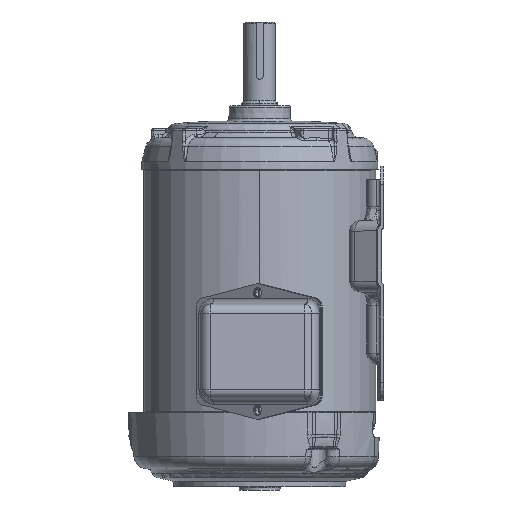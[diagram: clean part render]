
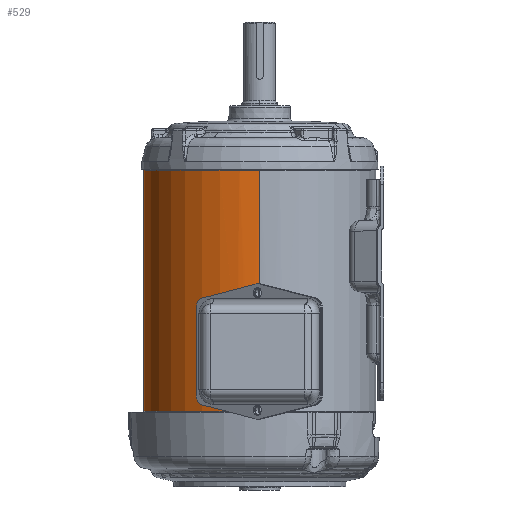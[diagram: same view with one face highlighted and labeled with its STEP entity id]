
A CAD part, left-side view. The second image highlights one B-rep face of the part: STEP entity #529.
In plain terms, the highlighted cylindrical face has radius 81.783 mm (diameter 163.566 mm), a partial arc.
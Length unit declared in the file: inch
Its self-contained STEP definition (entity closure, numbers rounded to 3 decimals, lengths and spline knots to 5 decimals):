
#2=CARTESIAN_POINT('',(-3.1702,0.563,-1.7635));
#3=CARTESIAN_POINT('',(-3.16835,0.57342,-1.7635));
#4=CARTESIAN_POINT('',(-3.16478,0.59292,-1.75998));
#5=CARTESIAN_POINT('',(-3.15962,0.61977,-1.74468));
#6=CARTESIAN_POINT('',(-3.15566,0.63953,-1.72097));
#7=CARTESIAN_POINT('',(-3.15353,0.64988,-1.69245));
#8=CARTESIAN_POINT('',(-3.15352,0.64997,-1.66188));
#9=CARTESIAN_POINT('',(-3.15565,0.6396,-1.6332));
#10=CARTESIAN_POINT('',(-3.15954,0.62016,-1.60965));
#11=CARTESIAN_POINT('',(-3.16477,0.59299,-1.594));
#12=CARTESIAN_POINT('',(-3.16834,0.57345,-1.5905));
#13=CARTESIAN_POINT('',(-3.1702,0.563,-1.5905));
#15=CARTESIAN_POINT('',(-3.1702,0.563,-1.5905));
#16=CARTESIAN_POINT('',(-3.17204,0.5526,-1.5905));
#17=CARTESIAN_POINT('',(-3.1754,0.53312,-1.59402));
#18=CARTESIAN_POINT('',(-3.17977,0.50634,-1.60924));
#19=CARTESIAN_POINT('',(-3.18284,0.48654,-1.63291));
#20=CARTESIAN_POINT('',(-3.1844,0.47611,-1.66149));
#21=CARTESIAN_POINT('',(-3.18442,0.47603,-1.69219));
#22=CARTESIAN_POINT('',(-3.18285,0.48647,-1.72093));
#23=CARTESIAN_POINT('',(-3.17983,0.50596,-1.74445));
#24=CARTESIAN_POINT('',(-3.17541,0.53307,-1.76001));
#25=CARTESIAN_POINT('',(-3.17205,0.55258,-1.7635));
#26=CARTESIAN_POINT('',(-3.1702,0.563,-1.7635));
#28=DIRECTION('',(0.,0.,1.));
#29=VECTOR('',#28,6.688);
#30=CARTESIAN_POINT('',(3.2198,0.,-3.333));
#31=LINE('',#30,#29);
#32=CARTESIAN_POINT('',(0.,0.,3.355));
#33=DIRECTION('',(0.,0.,1.));
#34=DIRECTION('',(1.,0.,0.));
#35=AXIS2_PLACEMENT_3D('',#32,#33,#34);
#37=CARTESIAN_POINT('',(0.,0.,3.355));
#38=DIRECTION('',(0.,0.,1.));
#39=DIRECTION('',(0.,1.,0.));
#40=AXIS2_PLACEMENT_3D('',#37,#38,#39);
#42=CARTESIAN_POINT('',(0.,0.,-1.267));
#43=DIRECTION('',(0.,0.,1.));
#44=DIRECTION('',(-0.996,0.089,0.));
#45=AXIS2_PLACEMENT_3D('',#42,#43,#44);
#47=CARTESIAN_POINT('',(-3.19359,0.41,-1.392));
#48=CARTESIAN_POINT('',(-3.19359,0.41,-1.3825));
#49=CARTESIAN_POINT('',(-3.19386,0.40789,-1.36404));
#50=CARTESIAN_POINT('',(-3.19504,0.3986,-1.33735));
#51=CARTESIAN_POINT('',(-3.19689,0.38353,-1.31337));
#52=CARTESIAN_POINT('',(-3.19924,0.36355,-1.29342));
#53=CARTESIAN_POINT('',(-3.20187,0.33967,-1.27841));
#54=CARTESIAN_POINT('',(-3.20459,0.31295,-1.2691));
#55=CARTESIAN_POINT('',(-3.20632,0.29449,-1.267));
#56=CARTESIAN_POINT('',(-3.20716,0.285,-1.267));
#58=DIRECTION('',(0.,0.,1.));
#59=VECTOR('',#58,0.95);
#60=CARTESIAN_POINT('',(-3.19359,0.41,-2.342));
#61=LINE('',#60,#59);
#62=CARTESIAN_POINT('',(-3.20716,0.285,-2.467));
#63=CARTESIAN_POINT('',(-3.20632,0.29448,-2.467));
#64=CARTESIAN_POINT('',(-3.2046,0.31292,-2.4649));
#65=CARTESIAN_POINT('',(-3.20188,0.33955,-2.45565));
#66=CARTESIAN_POINT('',(-3.19924,0.3635,-2.44063));
#67=CARTESIAN_POINT('',(-3.1969,0.38348,-2.42068));
#68=CARTESIAN_POINT('',(-3.19505,0.39854,-2.39678));
#69=CARTESIAN_POINT('',(-3.19386,0.40789,-2.36999));
#70=CARTESIAN_POINT('',(-3.19359,0.41,-2.35151));
#71=CARTESIAN_POINT('',(-3.19359,0.41,-2.342));
#73=CARTESIAN_POINT('',(0.,0.,-2.467));
#74=DIRECTION('',(0.,0.,1.));
#75=DIRECTION('',(-0.996,0.089,0.));
#76=AXIS2_PLACEMENT_3D('',#73,#74,#75);
#78=CARTESIAN_POINT('',(0.,0.,-3.333));
#79=DIRECTION('',(0.,0.,1.));
#80=DIRECTION('',(0.,1.,0.));
#81=AXIS2_PLACEMENT_3D('',#78,#79,#80);
#83=CARTESIAN_POINT('',(0.,0.,-3.333));
#84=DIRECTION('',(0.,0.,1.));
#85=DIRECTION('',(1.,0.,0.));
#86=AXIS2_PLACEMENT_3D('',#83,#84,#85);
#230=DIRECTION('',(0.,0.,1.));
#231=VECTOR('',#230,0.866);
#232=CARTESIAN_POINT('',(-3.2198,0.,-3.333));
#233=LINE('',#232,#231);
#270=DIRECTION('',(0.,0.,1.));
#271=VECTOR('',#270,4.622);
#272=CARTESIAN_POINT('',(-3.2198,0.,-1.267));
#273=LINE('',#272,#271);
#418=VERTEX_POINT('',#2);
#419=VERTEX_POINT('',#13);
#420=CARTESIAN_POINT('',(-3.20716,0.285,-1.267));
#421=CARTESIAN_POINT('',(-3.2198,0.,-1.267));
#422=VERTEX_POINT('',#420);
#423=VERTEX_POINT('',#421);
#424=CARTESIAN_POINT('',(-3.20716,0.285,-2.467));
#425=CARTESIAN_POINT('',(-3.2198,0.,-2.467));
#426=VERTEX_POINT('',#424);
#427=VERTEX_POINT('',#425);
#428=VERTEX_POINT('',#71);
#429=CARTESIAN_POINT('',(-3.19359,0.41,-1.392));
#430=VERTEX_POINT('',#429);
#468=CARTESIAN_POINT('',(3.2198,0.,-3.333));
#469=CARTESIAN_POINT('',(3.2198,0.,3.355));
#470=VERTEX_POINT('',#468);
#471=VERTEX_POINT('',#469);
#472=CARTESIAN_POINT('',(-3.2198,0.,-3.333));
#473=VERTEX_POINT('',#472);
#474=CARTESIAN_POINT('',(-3.2198,0.,3.355));
#475=VERTEX_POINT('',#474);
#484=CARTESIAN_POINT('',(0.,3.2198,3.355));
#485=VERTEX_POINT('',#484);
#486=CARTESIAN_POINT('',(0.,3.2198,-3.333));
#487=VERTEX_POINT('',#486);
#492=CARTESIAN_POINT('',(0.,0.,-3.427));
#493=DIRECTION('',(0.,0.,1.));
#494=DIRECTION('',(1.,0.,0.));
#495=AXIS2_PLACEMENT_3D('',#492,#493,#494);
#496=CYLINDRICAL_SURFACE('',#495,3.2198);
#498=ORIENTED_EDGE('',*,*,#497,.T.);
#500=ORIENTED_EDGE('',*,*,#499,.T.);
#502=ORIENTED_EDGE('',*,*,#501,.T.);
#504=ORIENTED_EDGE('',*,*,#503,.F.);
#506=ORIENTED_EDGE('',*,*,#505,.F.);
#508=ORIENTED_EDGE('',*,*,#507,.F.);
#510=ORIENTED_EDGE('',*,*,#509,.F.);
#512=ORIENTED_EDGE('',*,*,#511,.F.);
#514=ORIENTED_EDGE('',*,*,#513,.T.);
#516=ORIENTED_EDGE('',*,*,#515,.F.);
#518=ORIENTED_EDGE('',*,*,#517,.F.);
#520=ORIENTED_EDGE('',*,*,#519,.F.);
#521=EDGE_LOOP('',(#498,#500,#502,#504,#506,#508,#510,#512,#514,#516,#518,
#520));
#522=FACE_OUTER_BOUND('',#521,.F.);
#524=ORIENTED_EDGE('',*,*,#523,.F.);
#526=ORIENTED_EDGE('',*,*,#525,.F.);
#527=EDGE_LOOP('',(#524,#526));
#528=FACE_BOUND('',#527,.F.);
#529=ADVANCED_FACE('',(#522,#528),#496,.T.);
#14=B_SPLINE_CURVE_WITH_KNOTS('',3,(#2,#3,#4,#5,#6,#7,#8,#9,#10,#11,#12,#13),
.UNSPECIFIED.,.F.,.F.,(4,1,1,1,1,1,1,1,1,4),(0.,0.11111,
0.22222,0.33333,0.44444,0.55556,
0.66667,0.77778,0.88889,1.),.UNSPECIFIED.);
#27=B_SPLINE_CURVE_WITH_KNOTS('',3,(#15,#16,#17,#18,#19,#20,#21,#22,#23,#24,#25,
#26),.UNSPECIFIED.,.F.,.F.,(4,1,1,1,1,1,1,1,1,4),(0.,0.11111,
0.22222,0.33333,0.44444,0.55556,
0.66667,0.77778,0.88889,1.),.UNSPECIFIED.);
#36=CIRCLE('',#35,3.2198);
#41=CIRCLE('',#40,3.2198);
#46=CIRCLE('',#45,3.2198);
#57=B_SPLINE_CURVE_WITH_KNOTS('',3,(#47,#48,#49,#50,#51,#52,#53,#54,#55,#56),
.UNSPECIFIED.,.F.,.F.,(4,1,1,1,1,1,1,4),(0.,0.14286,
0.28571,0.42857,0.57143,0.71429,
0.85714,1.),.UNSPECIFIED.);
#72=B_SPLINE_CURVE_WITH_KNOTS('',3,(#62,#63,#64,#65,#66,#67,#68,#69,#70,#71),
.UNSPECIFIED.,.F.,.F.,(4,1,1,1,1,1,1,4),(0.,0.14286,
0.28571,0.42857,0.57143,0.71429,
0.85714,1.),.UNSPECIFIED.);
#77=CIRCLE('',#76,3.2198);
#82=CIRCLE('',#81,3.2198);
#87=CIRCLE('',#86,3.2198);
#497=EDGE_CURVE('',#470,#471,#31,.T.);
#499=EDGE_CURVE('',#471,#485,#36,.T.);
#501=EDGE_CURVE('',#485,#475,#41,.T.);
#503=EDGE_CURVE('',#423,#475,#273,.T.);
#505=EDGE_CURVE('',#422,#423,#46,.T.);
#507=EDGE_CURVE('',#430,#422,#57,.T.);
#509=EDGE_CURVE('',#428,#430,#61,.T.);
#511=EDGE_CURVE('',#426,#428,#72,.T.);
#513=EDGE_CURVE('',#426,#427,#77,.T.);
#515=EDGE_CURVE('',#473,#427,#233,.T.);
#517=EDGE_CURVE('',#487,#473,#82,.T.);
#519=EDGE_CURVE('',#470,#487,#87,.T.);
#523=EDGE_CURVE('',#418,#419,#14,.T.);
#525=EDGE_CURVE('',#419,#418,#27,.T.);
